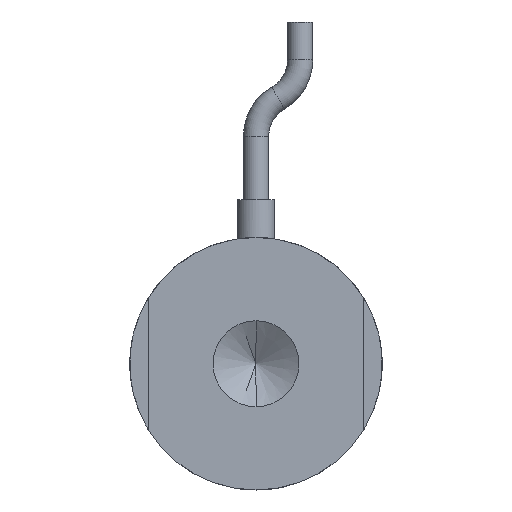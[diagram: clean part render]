
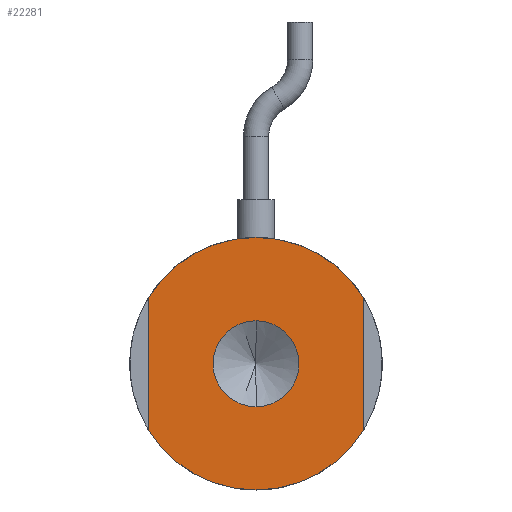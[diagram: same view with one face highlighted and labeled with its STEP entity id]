
A CAD part, front view. The second image highlights one B-rep face of the part: STEP entity #22281.
In plain terms, the highlighted planar face has unit normal (0, -1, 0).
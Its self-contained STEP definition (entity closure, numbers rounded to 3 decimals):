
#758 = VERTEX_POINT ( 'NONE', #44710 ) ;
#1078 = DIRECTION ( 'NONE',  ( 0., 0., -1. ) ) ;
#2681 = DIRECTION ( 'NONE',  ( 0., 0., -1. ) ) ;
#4213 = ORIENTED_EDGE ( 'NONE', *, *, #14845, .F. ) ;
#5642 = ORIENTED_EDGE ( 'NONE', *, *, #40039, .F. ) ;
#6674 = CARTESIAN_POINT ( 'NONE',  ( 0., 0., -10. ) ) ;
#6907 = CARTESIAN_POINT ( 'NONE',  ( 0., 0., 0. ) ) ;
#7133 = PLANE ( 'NONE',  #26259 ) ;
#7684 = ORIENTED_EDGE ( 'NONE', *, *, #40937, .F. ) ;
#9804 = EDGE_CURVE ( 'NONE', #23907, #27224, #33641, .T. ) ;
#9932 = FACE_BOUND ( 'NONE', #24992, .T. ) ;
#10464 = DIRECTION ( 'NONE',  ( 0., 0., 1. ) ) ;
#10692 = DIRECTION ( 'NONE',  ( 0., 1., 0. ) ) ;
#10864 = VECTOR ( 'NONE', #15837, 1000. ) ;
#11093 = DIRECTION ( 'NONE',  ( 0., 1., 0. ) ) ;
#13031 = LINE ( 'NONE', #33242, #10864 ) ;
#14845 = EDGE_CURVE ( 'NONE', #26040, #17377, #30904, .T. ) ;
#15837 = DIRECTION ( 'NONE',  ( 0., 0., -1. ) ) ;
#16370 = AXIS2_PLACEMENT_3D ( 'NONE', #44520, #23679, #2681 ) ;
#16443 = DIRECTION ( 'NONE',  ( 0., 1., 0. ) ) ;
#16981 = AXIS2_PLACEMENT_3D ( 'NONE', #40251, #19415, #43786 ) ;
#17377 = VERTEX_POINT ( 'NONE', #39152 ) ;
#17991 = CIRCLE ( 'NONE', #43803, 10. ) ;
#18728 = CIRCLE ( 'NONE', #19699, 3.4 ) ;
#19415 = DIRECTION ( 'NONE',  ( 0., 1., 0. ) ) ;
#19569 = CIRCLE ( 'NONE', #16981, 10. ) ;
#19699 = AXIS2_PLACEMENT_3D ( 'NONE', #42968, #22118, #1078 ) ;
#19709 = CARTESIAN_POINT ( 'NONE',  ( -8.5, 0., 0. ) ) ;
#21105 = VERTEX_POINT ( 'NONE', #38994 ) ;
#21370 = EDGE_LOOP ( 'NONE', ( #43578, #30586, #43628, #7684, #4213, #5642 ) ) ;
#22118 = DIRECTION ( 'NONE',  ( 0., -1., 0. ) ) ;
#22281 = ADVANCED_FACE ( 'NONE', ( #9932, #36617 ), #7133, .F. ) ;
#22848 = CARTESIAN_POINT ( 'NONE',  ( 8.5, 0., -5.268 ) ) ;
#23679 = DIRECTION ( 'NONE',  ( 0., -1., 0. ) ) ;
#23907 = VERTEX_POINT ( 'NONE', #6674 ) ;
#24516 = CIRCLE ( 'NONE', #16370, 3.4 ) ;
#24923 = VERTEX_POINT ( 'NONE', #26585 ) ;
#24992 = EDGE_LOOP ( 'NONE', ( #39066, #30401 ) ) ;
#26040 = VERTEX_POINT ( 'NONE', #43309 ) ;
#26259 = AXIS2_PLACEMENT_3D ( 'NONE', #31475, #10692, #35058 ) ;
#26516 = CARTESIAN_POINT ( 'NONE',  ( -8.5, 0., -5.268 ) ) ;
#26585 = CARTESIAN_POINT ( 'NONE',  ( -8.5, 0., 5.268 ) ) ;
#27154 = VERTEX_POINT ( 'NONE', #22848 ) ;
#27224 = VERTEX_POINT ( 'NONE', #26516 ) ;
#28237 = AXIS2_PLACEMENT_3D ( 'NONE', #37307, #16443, #40801 ) ;
#30394 = EDGE_CURVE ( 'NONE', #758, #21105, #18728, .T. ) ;
#30401 = ORIENTED_EDGE ( 'NONE', *, *, #30394, .F. ) ;
#30586 = ORIENTED_EDGE ( 'NONE', *, *, #9804, .F. ) ;
#30904 = CIRCLE ( 'NONE', #28237, 10. ) ;
#31402 = DIRECTION ( 'NONE',  ( 0., 1., 0. ) ) ;
#31475 = CARTESIAN_POINT ( 'NONE',  ( 0., 0., 0. ) ) ;
#32027 = CARTESIAN_POINT ( 'NONE',  ( 0., 0., 0. ) ) ;
#33242 = CARTESIAN_POINT ( 'NONE',  ( 8.5, 0., 0. ) ) ;
#33584 = DIRECTION ( 'NONE',  ( 0., 0., 1. ) ) ;
#33641 = CIRCLE ( 'NONE', #41818, 10. ) ;
#34863 = VECTOR ( 'NONE', #33584, 1000. ) ;
#35058 = DIRECTION ( 'NONE',  ( 0., 0., 1. ) ) ;
#35468 = DIRECTION ( 'NONE',  ( 0., 0., 1. ) ) ;
#36617 = FACE_OUTER_BOUND ( 'NONE', #21370, .T. ) ;
#37032 = LINE ( 'NONE', #19709, #34863 ) ;
#37307 = CARTESIAN_POINT ( 'NONE',  ( 0., 0., 0. ) ) ;
#38994 = CARTESIAN_POINT ( 'NONE',  ( 0., 0., -3.4 ) ) ;
#39066 = ORIENTED_EDGE ( 'NONE', *, *, #40644, .F. ) ;
#39152 = CARTESIAN_POINT ( 'NONE',  ( 8.5, 0., 5.268 ) ) ;
#40039 = EDGE_CURVE ( 'NONE', #24923, #26040, #17991, .T. ) ;
#40251 = CARTESIAN_POINT ( 'NONE',  ( 0., 0., 0. ) ) ;
#40622 = EDGE_CURVE ( 'NONE', #27224, #24923, #37032, .T. ) ;
#40644 = EDGE_CURVE ( 'NONE', #21105, #758, #24516, .T. ) ;
#40801 = DIRECTION ( 'NONE',  ( 0., 0., 1. ) ) ;
#40937 = EDGE_CURVE ( 'NONE', #17377, #27154, #13031, .T. ) ;
#41818 = AXIS2_PLACEMENT_3D ( 'NONE', #6907, #31402, #10464 ) ;
#41975 = EDGE_CURVE ( 'NONE', #27154, #23907, #19569, .T. ) ;
#42968 = CARTESIAN_POINT ( 'NONE',  ( 0., 0., 0. ) ) ;
#43309 = CARTESIAN_POINT ( 'NONE',  ( 0., 0., 10. ) ) ;
#43578 = ORIENTED_EDGE ( 'NONE', *, *, #40622, .F. ) ;
#43628 = ORIENTED_EDGE ( 'NONE', *, *, #41975, .F. ) ;
#43786 = DIRECTION ( 'NONE',  ( 0., 0., 1. ) ) ;
#43803 = AXIS2_PLACEMENT_3D ( 'NONE', #32027, #11093, #35468 ) ;
#44520 = CARTESIAN_POINT ( 'NONE',  ( 0., 0., 0. ) ) ;
#44710 = CARTESIAN_POINT ( 'NONE',  ( 0., 0., 3.4 ) ) ;
